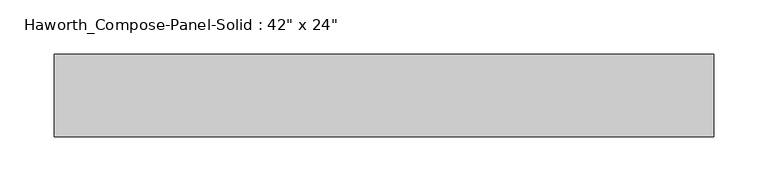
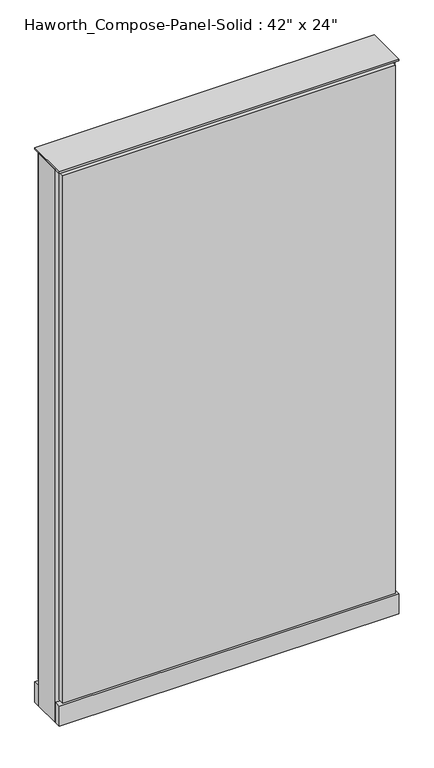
"""IFC4 building model written with IfcOpenShell, lengths in millimetres: furniture geometry."""

import ifcopenshell
import ifcopenshell.guid

model = None  # the IFC model being written
_history = None  # IfcOwnerHistory: only IFC2X3 demands one
_inside = {}  # id of a spatial element -> (the spatial element, [elements in it])
_under = {}  # id of a project, library or spatial element -> (it, [spatial elements below it])
_declared = {}  # id of a project -> (the project, [libraries it declares])
_typed = {}  # id of a type object -> (the type object, [elements of that type])
_made_of = {}  # id of a material, layer set ... -> (it, [elements and type objects made of it])


def new_model(schema):
    """Start an empty IFC model of exactly this schema.

    Asked for "IFC4X3", IfcOpenShell would pick the latest addendum, in which some entities
    have other attributes; the version numbers below select the first issue.
    IFC2X3 requires an IfcOwnerHistory on every rooted entity: one is made here for all.
    """
    global model, _history
    if schema == "IFC4X3":
        model = ifcopenshell.file(schema_version=(4, 3, 0, 0))
    else:
        model = ifcopenshell.file(schema=schema)
    _inside.clear()
    _under.clear()
    _declared.clear()
    _typed.clear()
    _made_of.clear()
    _history = None
    if model.schema == "IFC2X3":
        org = make("IfcOrganization", Name="unknown")
        user = make(
            "IfcPersonAndOrganization",
            ThePerson=make("IfcPerson", FamilyName="unknown"),
            TheOrganization=org,
        )
        app = make(
            "IfcApplication",
            ApplicationDeveloper=org,
            Version="unknown",
            ApplicationFullName="unknown",
            ApplicationIdentifier="unknown",
        )
        _history = make(
            "IfcOwnerHistory",
            OwningUser=user,
            OwningApplication=app,
            ChangeAction="ADDED",
            CreationDate=0,
        )
    return model


def make(cls, **values):
    """One entity of the class cls with the attributes given. An attribute that is None is left unset."""
    return model.create_entity(
        cls, **{name: value for name, value in values.items() if value is not None}
    )


def rooted(cls, **values):
    """An entity with a GlobalId (a new one), such as an element, a storey or a relation."""
    return make(cls, GlobalId=ifcopenshell.guid.new(), OwnerHistory=_history, **values)


def si_unit(unit_type, name, prefix=None):
    """IfcSIUnit, for example si_unit("LENGTHUNIT", "METRE", prefix="MILLI")."""
    return make("IfcSIUnit", UnitType=unit_type, Prefix=prefix, Name=name)


def assignment(units):
    """IfcUnitAssignment: the units of a project."""
    return None if units is None else make("IfcUnitAssignment", Units=units)


def point(xyz):
    """IfcCartesianPoint."""
    return None if xyz is None else make("IfcCartesianPoint", Coordinates=xyz)


def direction(xyz):
    """IfcDirection."""
    return None if xyz is None else make("IfcDirection", DirectionRatios=xyz)


def frame(location, z_axis=None, x_axis=None):
    """IfcAxis2Placement3D, a coordinate frame: its origin and axes. An axis left out is left unset."""
    return make(
        "IfcAxis2Placement3D",
        Location=point(location),
        Axis=direction(z_axis),
        RefDirection=direction(x_axis),
    )


def frame_2d(location, x_axis=None):
    """IfcAxis2Placement2D, a coordinate frame in the plane: its origin and x axis."""
    return make(
        "IfcAxis2Placement2D", Location=point(location), RefDirection=direction(x_axis)
    )


def origin():
    """The frame at (0, 0, 0) with its axes left unset."""
    return frame((0.0, 0.0, 0.0))


def origin_with_axes():
    """The frame at (0, 0, 0) with the z axis (0, 0, 1) and the x axis (1, 0, 0) written out."""
    return frame((0.0, 0.0, 0.0), z_axis=(0.0, 0.0, 1.0), x_axis=(1.0, 0.0, 0.0))


def place(relative_to, where):
    """IfcLocalPlacement: puts the frame where relative to a parent placement (None: the world)."""
    return make(
        "IfcLocalPlacement", PlacementRelTo=relative_to, RelativePlacement=where
    )


def context(
    kind, dimensions, precision=None, world=None, true_north=None, identifier=None
):
    """IfcGeometricRepresentationContext, for example the 3D "Model" context."""
    return make(
        "IfcGeometricRepresentationContext",
        ContextIdentifier=identifier,
        ContextType=kind,
        CoordinateSpaceDimension=dimensions,
        Precision=precision,
        WorldCoordinateSystem=world,
        TrueNorth=true_north,
    )


def project(units=None, contexts=None):
    """IfcProject with its units and contexts."""
    return rooted(
        "IfcProject",
        Name="project",
        RepresentationContexts=contexts,
        UnitsInContext=assignment(units),
    )


def spatial(cls, under=None, at=None, **own):
    """A site, building, storey or space (cls), placed at a placement, below another one or the project."""
    s = rooted(cls, ObjectPlacement=at, **own)
    if under is not None:
        _under.setdefault(under.id(), (under, []))[1].append(s)
    return s


def polyline(points):
    """IfcPolyline through the points."""
    return make("IfcPolyline", Points=[point(p) for p in points])


def circle_curve(where, radius):
    """IfcCircle in the frame where."""
    return make("IfcCircle", Position=where, Radius=radius)


def trimmed(basis, trim1, trim2, sense, master):
    """IfcTrimmedCurve: the piece of a basis curve between two trims."""
    return make(
        "IfcTrimmedCurve",
        BasisCurve=basis,
        Trim1=trim1,
        Trim2=trim2,
        SenseAgreement=sense,
        MasterRepresentation=master,
    )


def segment(curve, same_sense, transition):
    """IfcCompositeCurveSegment."""
    return make(
        "IfcCompositeCurveSegment",
        Transition=transition,
        SameSense=same_sense,
        ParentCurve=curve,
    )


def composite_curve(segments, self_intersect=None):
    """IfcCompositeCurve: segments joined end to end."""
    return make("IfcCompositeCurve", Segments=segments, SelfIntersect=self_intersect)


def outline(outer, holes=None, kind="AREA"):
    """IfcArbitraryClosedProfileDef: a profile drawn as a closed curve; with holes, ...WithVoids."""
    if holes is None:
        return make("IfcArbitraryClosedProfileDef", ProfileType=kind, OuterCurve=outer)
    return make(
        "IfcArbitraryProfileDefWithVoids",
        ProfileType=kind,
        OuterCurve=outer,
        InnerCurves=holes,
    )


def extrude(swept, where, along, depth):
    """IfcExtrudedAreaSolid: the profile swept, set in the frame where, extruded along a direction by depth."""
    return make(
        "IfcExtrudedAreaSolid",
        SweptArea=swept,
        Position=where,
        ExtrudedDirection=direction(along),
        Depth=depth,
    )


def shape(context_of_items, identifier, shape_type, items):
    """IfcShapeRepresentation: the items that make up one representation, for example the "Body"."""
    return make(
        "IfcShapeRepresentation",
        ContextOfItems=context_of_items,
        RepresentationIdentifier=identifier,
        RepresentationType=shape_type,
        Items=items,
    )


def source(mapping_origin, context_of_items, identifier, shape_type, items):
    """IfcRepresentationMap: a shape defined once, which mapped items show again and again."""
    return make(
        "IfcRepresentationMap",
        MappingOrigin=mapping_origin,
        MappedRepresentation=shape(context_of_items, identifier, shape_type, items),
    )


def transform(
    local_origin,
    x_axis=None,
    y_axis=None,
    z_axis=None,
    scale=None,
    scale2=None,
    scale3=None,
    uniform=True,
):
    """IfcCartesianTransformationOperator3D, or its non-uniform kind. x_axis, y_axis, z_axis: its Axis1, 2, 3."""
    if uniform:
        return make(
            "IfcCartesianTransformationOperator3D",
            Axis1=direction(x_axis),
            Axis2=direction(y_axis),
            LocalOrigin=point(local_origin),
            Scale=scale,
            Axis3=direction(z_axis),
        )
    return make(
        "IfcCartesianTransformationOperator3DnonUniform",
        Axis1=direction(x_axis),
        Axis2=direction(y_axis),
        LocalOrigin=point(local_origin),
        Scale=scale,
        Axis3=direction(z_axis),
        Scale2=scale2,
        Scale3=scale3,
    )


def mapped(mapping_source, mapping_target):
    """IfcMappedItem: shows the shape of a source again, moved by a transform."""
    return make(
        "IfcMappedItem", MappingSource=mapping_source, MappingTarget=mapping_target
    )


def made_of(thing, what):
    """Note that an element or type object is made of a material, layer set ...; save() writes the relation."""
    if what is not None:
        _made_of.setdefault(what.id(), (what, []))[1].append(thing)
    return thing


def element(
    cls,
    number,
    at=None,
    inside=None,
    cuts=None,
    type_object=None,
    material=None,
    context=None,
    identifier="Body",
    shape_type=None,
    held_by="IfcProductDefinitionShape",
    body=None,
    shapes=None,
    **own,
):
    """One element of the class cls, such as IfcWall. Its Tag is "e" and its number.

    at: its placement. inside: the storey or other place that contains it. cuts: it is an
    opening in that element (IfcRelVoidsElement). A single representation is given by context,
    identifier, shape_type and body (its items); several are given by shapes. held_by: the class
    of the entity that holds the representations. save() writes the other relations.
    """
    e = rooted(cls, Tag="e%d" % number, ObjectPlacement=at, **own)
    if body is not None:
        shapes = [shape(context, identifier, shape_type, body)]
    if shapes is not None:
        e.Representation = make(held_by, Representations=shapes)
    if inside is not None:
        _inside.setdefault(inside.id(), (inside, []))[1].append(e)
    if cuts is not None:
        rooted(
            "IfcRelVoidsElement", RelatingBuildingElement=cuts, RelatedOpeningElement=e
        )
    if type_object is not None:
        _typed.setdefault(type_object.id(), (type_object, []))[1].append(e)
    return made_of(e, material)


def aggregate(whole, parts):
    """IfcRelAggregates: a whole, such as a stair, and the parts it consists of."""
    return rooted("IfcRelAggregates", RelatingObject=whole, RelatedObjects=parts)


def save(model, path):
    """Write the relations noted so far, then the file.

    IfcRelAggregates (storeys below a building ...), IfcRelContainedInSpatialStructure (elements
    in a storey), IfcRelDefinesByType, IfcRelAssociatesMaterial and IfcRelDeclares: one each for
    every whole, place, type object, material and project.
    """
    for whole, parts in _under.values():
        aggregate(whole, parts)
    for where, things in _inside.values():
        rooted(
            "IfcRelContainedInSpatialStructure",
            RelatedElements=things,
            RelatingStructure=where,
        )
    for kind, things in _typed.values():
        rooted("IfcRelDefinesByType", RelatedObjects=things, RelatingType=kind)
    for what, things in _made_of.values():
        rooted("IfcRelAssociatesMaterial", RelatedObjects=things, RelatingMaterial=what)
    for by, libraries in _declared.values():
        rooted("IfcRelDeclares", RelatingContext=by, RelatedDefinitions=libraries)
    model.write(path)


def furniture_b91f1926(model_context):
    return source(origin(), model_context, "Body", "SweptSolid", [
        extrude(outline(composite_curve([segment(trimmed(circle_curve(frame_2d((-226.1597098, 0.0)), 12.7), [point((-238.8597098, 0.0))], [point((-213.4597098, 0.0))], False, "CARTESIAN"), True, "CONTINUOUS"), segment(trimmed(circle_curve(frame_2d((-226.1597098, 0.0)), 12.7), [point((-213.4597098, 0.0))], [point((-238.8597098, 0.0))], False, "CARTESIAN"), True, "CONTINUOUS")], self_intersect=False)), origin_with_axes(), (0.0, 0.0, 1.0), 12.7),
        extrude(outline(composite_curve([segment(trimmed(circle_curve(frame_2d((231.0402902, 0.0)), 12.7), [point((218.3402902, 0.0))], [point((243.7402902, 0.0))], False, "CARTESIAN"), True, "CONTINUOUS"), segment(trimmed(circle_curve(frame_2d((231.0402902, 0.0)), 12.7), [point((243.7402902, 0.0))], [point((218.3402902, 0.0))], False, "CARTESIAN"), True, "CONTINUOUS")], self_intersect=False)), origin_with_axes(), (0.0, 0.0, 1.0), 12.7),
        extrude(outline(polyline([(300.8902902, -38.1), (-296.0097098, -38.1), (-296.0097098, -25.4), (300.8902902, -25.4), (300.8902902, -38.1)])), frame((0.0, 0.0, 53.975), z_axis=(0.0, 0.0, 1.0), x_axis=(1.0, 0.0, 0.0)), (0.0, 0.0, 1.0), 1000.125),
        extrude(outline(polyline([(300.8902902, 38.1), (300.8902902, 25.4), (-296.0097098, 25.4), (-296.0097098, 38.1), (300.8902902, 38.1)])), frame((0.0, 0.0, 53.975), z_axis=(0.0, 0.0, 1.0), x_axis=(1.0, 0.0, 0.0)), (0.0, 0.0, 1.0), 1000.125),
        extrude(outline(polyline([(307.2402902, -25.4), (-302.3597098, -25.4), (-302.3597098, 25.4), (307.2402902, 25.4), (307.2402902, -25.4)])), frame((0.0, 0.0, 12.7), z_axis=(0.0, 0.0, 1.0), x_axis=(1.0, 0.0, 0.0)), (0.0, 0.0, 1.0), 1047.75),
        extrude(outline(polyline([(-302.3597098, 38.1), (307.2402902, 38.1), (307.2402902, -38.1), (-302.3597098, -38.1), (-302.3597098, 38.1)])), frame((0.0, 0.0, 12.7), z_axis=(0.0, 0.0, 1.0), x_axis=(1.0, 0.0, 0.0)), (0.0, 0.0, 1.0), 38.1),
        extrude(outline(polyline([(-302.3597098, 38.1), (307.2402902, 38.1), (307.2402902, -38.1), (-302.3597098, -38.1), (-302.3597098, 38.1)])), frame((0.0, 0.0, 1060.45), z_axis=(0.0, 0.0, 1.0), x_axis=(1.0, 0.0, 0.0)), (0.0, 0.0, 1.0), 3.175),
    ])


if __name__ == "__main__":
    model = new_model("IFC4")
    model_context = context("Model", 3, world=origin())
    ifc_project = project(units=[si_unit("LENGTHUNIT", "METRE", prefix="MILLI")], contexts=[model_context])
    site = spatial("IfcSite", under=ifc_project)
    building = spatial("IfcBuilding", under=site)
    placement = place(None, origin())
    furniture_shape = furniture_b91f1926(model_context)
    element("IfcFurniture", 1, ObjectType="Haworth_Compose-Panel-Solid : 42\" x 24\"", at=placement, inside=building, context=model_context, shape_type="MappedRepresentation", body=[
        mapped(furniture_shape, transform((0.0, 0.0, 0.0), x_axis=(1.0, 0.0, 0.0), y_axis=(0.0, 1.0, 0.0), z_axis=(0.0, 0.0, 1.0))),
    ])
    save(model, "model.ifc")
